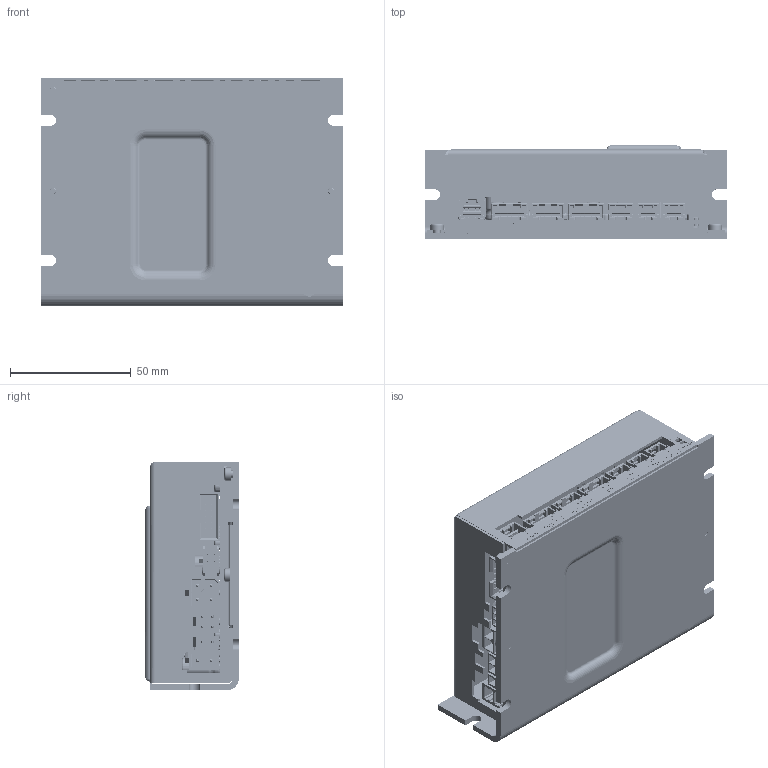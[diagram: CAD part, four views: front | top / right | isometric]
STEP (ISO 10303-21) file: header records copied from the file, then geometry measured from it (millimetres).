
FILE_DESCRIPTION((''),'2;1');
FILE_NAME('EPOS4_70-10_ZUSAMMENBAU_V01_ASM','2018-05-30T',('mmagrari'),(''),'CREO PARAMETRIC BY PTC INC, 2017020','CREO PARAMETRIC BY PTC INC, 2017020','');
FILE_SCHEMA(('CONFIG_CONTROL_DESIGN'));
Products named in the file (44): EPOS4_70-10_PCB; EPOS4_70-10_GRUNDPLATTE; PEM-SO-3_5M3X6_A2A; EPOS4_70-10_BODEN_KOMPL_ASM; M3X8; MOLEX-39-30-1020; MOLEX-43045-0600; MOLEX-39-30-1040; 768250002; 768250004; 3M-N2510-5002-RB; 36P-C; M-RJHSE-5381-02-REVT1; 5031750800; 5031750700; 5031750500; 5031481090; 5031750400; CHP_08_G_LOWER_BODY; CHP_KNOBLOWER; CHP_081TB_ASM; USB-MICRO; CAP_D12-5X25-5; LED_SIDE_BASE; LED_SIDE_GREEN; LED_SIDE_3-1_GREEN_ASM; COILCRAFT-VER2923-XXX; CAP_D8X16-3-5; EPOS4_70-10_PCB_ASM_ASM; EPOS4_70-10_DECKEL; M3X4; 585133; SILKSCREEN_EP470-10_T_BASE; SILKSCREEN_EP470-10_T_TOP; SILKSCREEN_ESD-LOGO; USB-LOGO-STEHEND-2_5-5; SILKSCREEN_EP470-10_LOGO; SILKSCREEN_MAXON_LOGO_33X3; ROTE4; SILKSCREEN_EP4-70-10_TOP_ASM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
Assembly tree (70 placements, depth 4):
  EPOS4_70-10_ZUSAMMENBAU_V01_ASM
    EPOS4_70-10_PCB
    EPOS4_70-10_BODEN_KOMPL_ASM
      EPOS4_70-10_GRUNDPLATTE
      PEM-SO-3_5M3X6_A2A  x5
    M3X8  x5
    EPOS4_70-10_PCB_ASM_ASM
      EPOS4_70-10_PCB
      MOLEX-39-30-1020
      MOLEX-43045-0600
      MOLEX-39-30-1040
      768250002
      768250004
      3M-N2510-5002-RB
      36P-C  x2
      M-RJHSE-5381-02-REVT1
      5031750800  x2
      5031750700
      5031750500
      5031481090  x2
      5031750400  x2
      CHP_081TB_ASM
        CHP_08_G_LOWER_BODY
        CHP_KNOBLOWER  x8
      USB-MICRO
      CAP_D12-5X25-5  x3
      LED_SIDE_3-1_GREEN_ASM  x2
        LED_SIDE_BASE
        LED_SIDE_GREEN
      COILCRAFT-VER2923-XXX  x3
      CAP_D8X16-3-5
    EPOS4_70-10_DECKEL
    M3X4  x3
    585133
    SILKSCREEN_EP4-70-10_TOP_ASM
      SILKSCREEN_EP470-10_T_BASE
      SILKSCREEN_EP470-10_T_TOP
      SILKSCREEN_ESD-LOGO
      USB-LOGO-STEHEND-2_5-5
      SILKSCREEN_EP470-10_LOGO
      SILKSCREEN_MAXON_LOGO_33X3
      ROTE4
    SILKSCREEN_EP4-70-10_FRONT_ASM
      SILKSCREEN_EP470-10_F_BASE
      SILKSCREEN_EP470-10_F_TOP
Bounding box: 125 x 38.7 x 94.7 mm (x, y, z)
Volume: 134897.5 mm3; surface area: 195198.2 mm2
Topology: 154 solids, 173 shells, 14881 faces, 42919 edges, 28779 vertices
Faces by surface type: plane 8759, extrusion 3224, cylinder 2583, cone 124, torus 122, bspline 58, sphere 11
Entity records: 503048 total; most frequent: CARTESIAN_POINT 106746, ORIENTED_EDGE 68182, DIRECTION 51257, EDGE_CURVE 34104, PRESENTATION_STYLE_ASSIGNMENT 27029, VECTOR 26587, STYLED_ITEM 26269, CURVE_STYLE 25178
